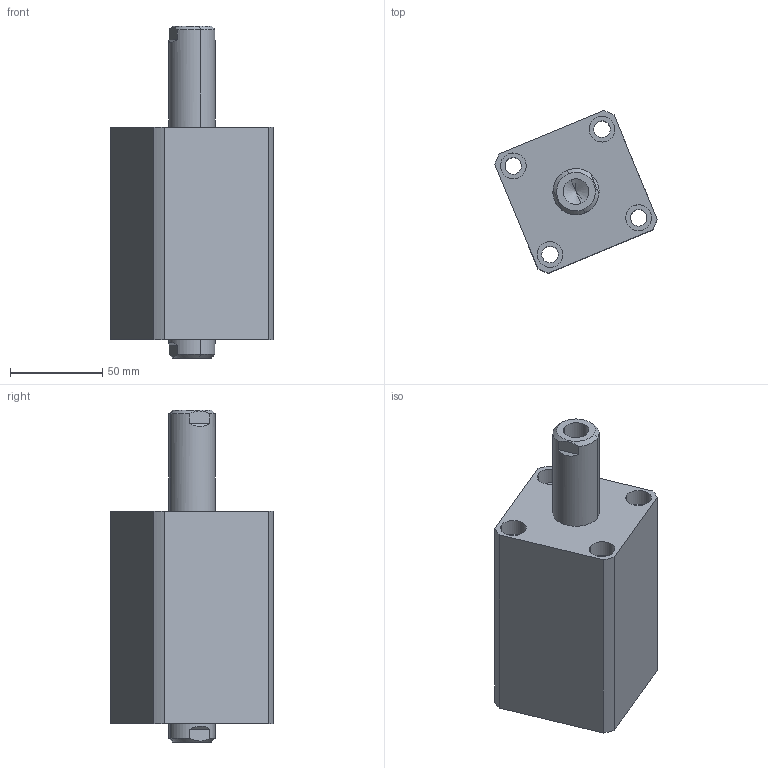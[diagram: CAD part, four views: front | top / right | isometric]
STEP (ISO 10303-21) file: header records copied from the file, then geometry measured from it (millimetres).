
FILE_DESCRIPTION (( 'STEP AP214' ), '1' );
FILE_NAME ('chtb-sw40x45n_asm.STEP', '2018-06-08T12:03:30', ( 'Windows' ), ( 'Microsoft' ), 'SwSTEP 2.0', 'SolidWorks 2015', '' );
FILE_SCHEMA (( 'AUTOMOTIVE_DESIGN' ));
Length unit declared in the file: millimetre
Products named in the file (4): CHTB-SW40X45NHSG; CHTB-SW40X45NBT; CHTB-SD40QG; chtb-sw40x45n_asm
Assembly tree (3 placements, depth 2):
  chtb-sw40x45n_asm
    CHTB-SD40QG
    CHTB-SW40X45NBT
    CHTB-SW40X45NHSG
Bounding box: 88.11 x 88.11 x 180 mm (x, y, z)
Volume: 508195.6 mm3; surface area: 97996.6 mm2
Topology: 3 solids, 3 shells, 167 faces, 429 edges, 282 vertices
Faces by surface type: cylinder 84, plane 40, cone 17, bspline 14, torus 12
Entity records: 10325 total; most frequent: CARTESIAN_POINT 6131, ORIENTED_EDGE 838, DIRECTION 822, EDGE_CURVE 419, AXIS2_PLACEMENT_3D 348, VERTEX_POINT 282, EDGE_LOOP 207, CIRCLE 189
